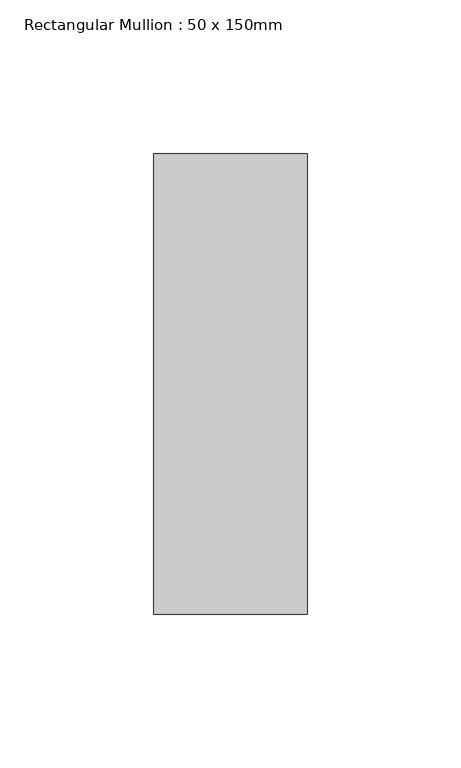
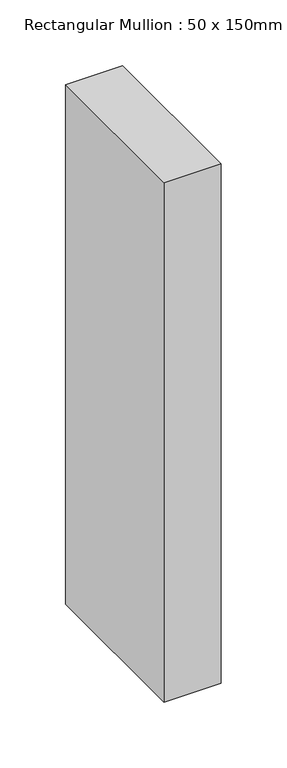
"""IFC4 building model written with IfcOpenShell, lengths in millimetres: member geometry, Rectangular Mullion : 50 x 150mm."""

from ifc_helpers import new_model, si_unit, frame, origin, place, context, project, spatial, polyline, outline, extrude, source, transform, mapped, element, save


def rectangular_mullion_50_x_150mm_8bb02af5(model_context):
    return source(origin(), model_context, "Body", "SweptSolid", [
        extrude(outline(polyline([(0.0, 75.0), (0.0, -75.0), (-50.0, -75.0), (-50.0, 75.0), (0.0, 75.0)])), frame((0.0, 0.0, -482.0833334), z_axis=(0.0, 0.0, 1.0), x_axis=(1.0, 0.0, 0.0)), (0.0, 0.0, 1.0), 482.0833334),
    ])


if __name__ == "__main__":
    model = new_model("IFC4")
    model_context = context("Model", 3, world=origin())
    ifc_project = project(units=[si_unit("LENGTHUNIT", "METRE", prefix="MILLI")], contexts=[model_context])
    site = spatial("IfcSite", under=ifc_project)
    building = spatial("IfcBuilding", under=site)
    placement = place(None, origin())
    rectangular_mullion_50_x_150mm_shape = rectangular_mullion_50_x_150mm_8bb02af5(model_context)
    element("IfcMember", 1, ObjectType="Rectangular Mullion : 50 x 150mm", at=placement, inside=building, context=model_context, shape_type="MappedRepresentation", body=[
        mapped(rectangular_mullion_50_x_150mm_shape, transform((0.0, 0.0, 0.0), x_axis=(1.0, 0.0, 0.0), y_axis=(0.0, 1.0, 0.0), z_axis=(0.0, 0.0, 1.0))),
    ])
    save(model, "model.ifc")
